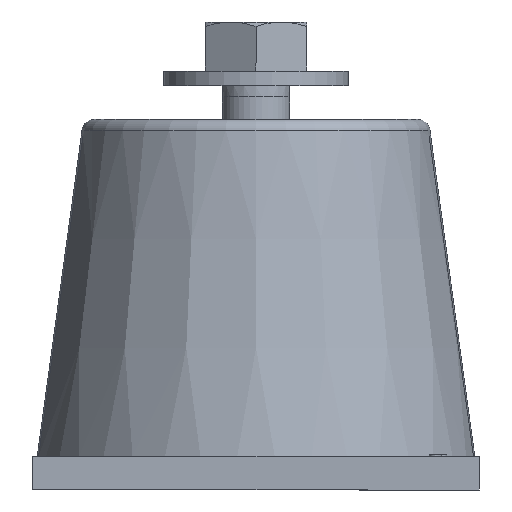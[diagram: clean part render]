
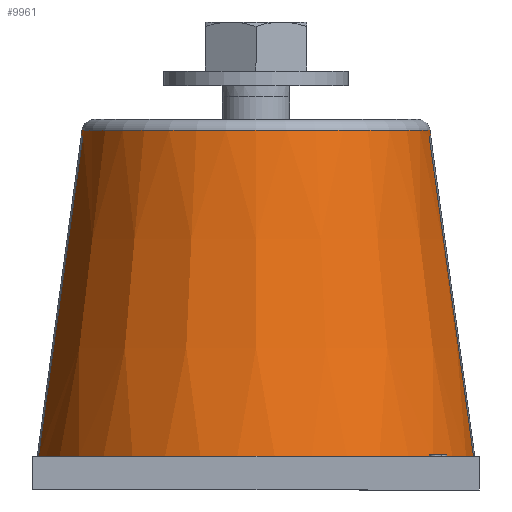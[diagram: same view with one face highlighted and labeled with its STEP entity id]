
A CAD part, front view. The second image highlights one B-rep face of the part: STEP entity #9961.
In plain terms, the highlighted conical face has half-angle 7.829 degrees and reference radius 37.051 mm.
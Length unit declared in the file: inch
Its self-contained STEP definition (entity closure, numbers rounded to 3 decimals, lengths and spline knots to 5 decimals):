
#124=CARTESIAN_POINT('',(-0.1875,1.61415,0.25));
#125=VERTEX_POINT('',#124);
#126=CARTESIAN_POINT('',(-0.1875,1.28483,2.625));
#127=VERTEX_POINT('',#126);
#128=CARTESIAN_POINT('',(-0.1875,1.61415,0.25));
#129=CARTESIAN_POINT('',(-0.1875,1.43109,1.5724));
#130=CARTESIAN_POINT('',(-0.1875,1.28483,2.625));
#138=(BOUNDED_CURVE()B_SPLINE_CURVE(2,(#128,#129,#130),.UNSPECIFIED.,.F.,.U.)B_SPLINE_CURVE_WITH_KNOTS((3,3),(0.0,6.09022),.UNSPECIFIED.)CURVE()GEOMETRIC_REPRESENTATION_ITEM()RATIONAL_B_SPLINE_CURVE((1.0,1.006,1.0))REPRESENTATION_ITEM(''));
#139=EDGE_CURVE('',#125,#127,#138,.T.);
#141=CARTESIAN_POINT('',(0.1875,1.28483,2.625));
#142=VERTEX_POINT('',#141);
#143=CARTESIAN_POINT('',(0.,0.,2.625));
#144=DIRECTION('',(0.0,0.0,-1.0));
#145=DIRECTION('',(1.0,0.0,0.0));
#146=AXIS2_PLACEMENT_3D('',#143,#144,#145);
#147=CIRCLE('',#146,1.29844);
#148=EDGE_CURVE('',#127,#142,#147,.T.);
#150=CARTESIAN_POINT('',(0.1875,1.61415,0.25));
#151=VERTEX_POINT('',#150);
#152=CARTESIAN_POINT('',(0.1875,1.28483,2.625));
#153=CARTESIAN_POINT('',(0.1875,1.43109,1.5724));
#154=CARTESIAN_POINT('',(0.1875,1.61415,0.25));
#162=(BOUNDED_CURVE()B_SPLINE_CURVE(2,(#152,#153,#154),.UNSPECIFIED.,.F.,.U.)B_SPLINE_CURVE_WITH_KNOTS((3,3),(0.0,6.09022),.UNSPECIFIED.)CURVE()GEOMETRIC_REPRESENTATION_ITEM()RATIONAL_B_SPLINE_CURVE((1.0,1.006,1.0))REPRESENTATION_ITEM(''));
#163=EDGE_CURVE('',#142,#151,#162,.T.);
#180=CARTESIAN_POINT('',(0.1875,-1.61415,0.25));
#181=VERTEX_POINT('',#180);
#182=CARTESIAN_POINT('',(0.1875,-1.28483,2.625));
#183=VERTEX_POINT('',#182);
#184=CARTESIAN_POINT('',(0.1875,-1.61415,0.25));
#185=CARTESIAN_POINT('',(0.1875,-1.43109,1.5724));
#186=CARTESIAN_POINT('',(0.1875,-1.28483,2.625));
#194=(BOUNDED_CURVE()B_SPLINE_CURVE(2,(#184,#185,#186),.UNSPECIFIED.,.F.,.U.)B_SPLINE_CURVE_WITH_KNOTS((3,3),(0.0,6.09022),.UNSPECIFIED.)CURVE()GEOMETRIC_REPRESENTATION_ITEM()RATIONAL_B_SPLINE_CURVE((1.0,1.006,1.0))REPRESENTATION_ITEM(''));
#195=EDGE_CURVE('',#181,#183,#194,.T.);
#197=CARTESIAN_POINT('',(-0.1875,-1.28483,2.625));
#198=VERTEX_POINT('',#197);
#199=CARTESIAN_POINT('',(0.,0.,2.625));
#200=DIRECTION('',(0.0,0.0,-1.0));
#201=DIRECTION('',(1.0,0.0,0.0));
#202=AXIS2_PLACEMENT_3D('',#199,#200,#201);
#203=CIRCLE('',#202,1.29844);
#204=EDGE_CURVE('',#183,#198,#203,.T.);
#206=CARTESIAN_POINT('',(-0.1875,-1.61415,0.25));
#207=VERTEX_POINT('',#206);
#208=CARTESIAN_POINT('',(-0.1875,-1.28483,2.625));
#209=CARTESIAN_POINT('',(-0.1875,-1.43109,1.5724));
#210=CARTESIAN_POINT('',(-0.1875,-1.61415,0.25));
#218=(BOUNDED_CURVE()B_SPLINE_CURVE(2,(#208,#209,#210),.UNSPECIFIED.,.F.,.U.)B_SPLINE_CURVE_WITH_KNOTS((3,3),(0.0,6.09022),.UNSPECIFIED.)CURVE()GEOMETRIC_REPRESENTATION_ITEM()RATIONAL_B_SPLINE_CURVE((1.0,1.006,1.0))REPRESENTATION_ITEM(''));
#219=EDGE_CURVE('',#198,#207,#218,.T.);
#7732=CARTESIAN_POINT('',(1.625,0.,0.25));
#7733=VERTEX_POINT('',#7732);
#7734=CARTESIAN_POINT('',(0.,0.,0.25));
#7735=DIRECTION('',(0.0,0.0,-1.0));
#7736=DIRECTION('',(1.0,0.0,0.0));
#7737=AXIS2_PLACEMENT_3D('',#7734,#7735,#7736);
#7738=CIRCLE('',#7737,1.625);
#7739=EDGE_CURVE('',#7733,#181,#7738,.T.);
#7742=CARTESIAN_POINT('',(0.,0.,0.25));
#7743=DIRECTION('',(0.0,0.0,-1.0));
#7744=DIRECTION('',(1.0,0.0,0.0));
#7745=AXIS2_PLACEMENT_3D('',#7742,#7743,#7744);
#7746=CIRCLE('',#7745,1.625);
#7747=EDGE_CURVE('',#207,#125,#7746,.T.);
#7750=CARTESIAN_POINT('',(0.,0.,0.25));
#7751=DIRECTION('',(0.0,0.0,-1.0));
#7752=DIRECTION('',(1.0,0.0,0.0));
#7753=AXIS2_PLACEMENT_3D('',#7750,#7751,#7752);
#7754=CIRCLE('',#7753,1.625);
#7755=EDGE_CURVE('',#151,#7733,#7754,.T.);
#9927=CARTESIAN_POINT('',(1.29238,0.,2.66902));
#9928=VERTEX_POINT('',#9927);
#9929=CARTESIAN_POINT('',(0.,0.,2.66902));
#9930=DIRECTION('',(0.0,0.0,-1.0));
#9931=DIRECTION('',(1.0,0.0,0.0));
#9932=AXIS2_PLACEMENT_3D('',#9929,#9930,#9931);
#9933=CIRCLE('',#9932,1.29238);
#9934=EDGE_CURVE('',#9928,#9928,#9933,.T.);
#9942=CARTESIAN_POINT('',(0.,0.,1.45951));
#9943=DIRECTION('',(0.,0.,-1.0));
#9944=DIRECTION('',(1.0,0.0,0.0));
#9945=AXIS2_PLACEMENT_3D('',#9942,#9943,#9944);
#9946=CONICAL_SURFACE('',#9945,1.45869,7.829);
#9947=ORIENTED_EDGE('',*,*,#195,.F.);
#9948=ORIENTED_EDGE('',*,*,#7739,.F.);
#9949=ORIENTED_EDGE('',*,*,#7755,.F.);
#9950=ORIENTED_EDGE('',*,*,#163,.F.);
#9951=ORIENTED_EDGE('',*,*,#148,.F.);
#9952=ORIENTED_EDGE('',*,*,#139,.F.);
#9953=ORIENTED_EDGE('',*,*,#7747,.F.);
#9954=ORIENTED_EDGE('',*,*,#219,.F.);
#9955=ORIENTED_EDGE('',*,*,#204,.F.);
#9956=EDGE_LOOP('',(#9947,#9948,#9949,#9950,#9951,#9952,#9953,#9954,#9955));
#9957=FACE_OUTER_BOUND('',#9956,.T.);
#9958=ORIENTED_EDGE('',*,*,#9934,.T.);
#9959=EDGE_LOOP('',(#9958));
#9960=FACE_BOUND('',#9959,.T.);
#9961=ADVANCED_FACE('',(#9957,#9960),#9946,.T.);
